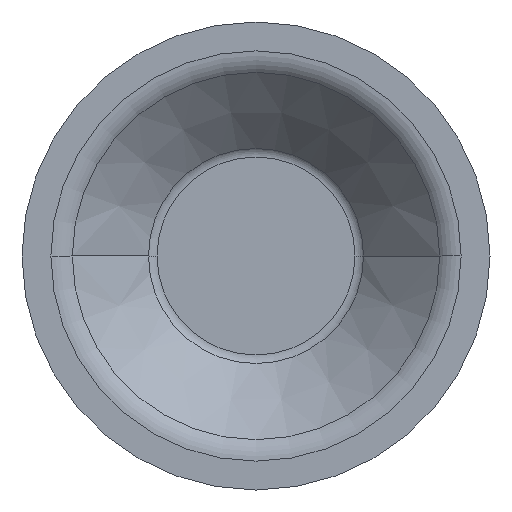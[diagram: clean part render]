
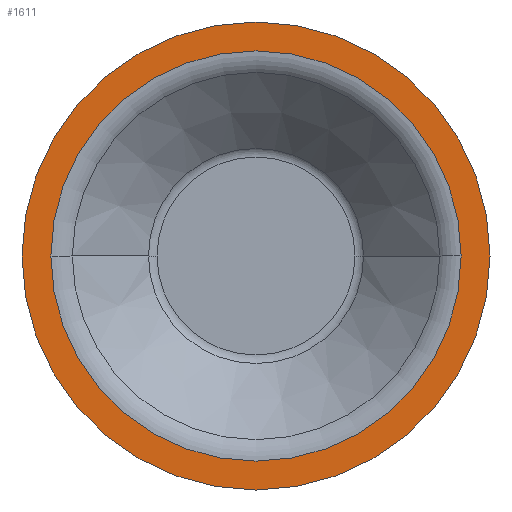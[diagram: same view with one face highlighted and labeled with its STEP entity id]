
A CAD part, front view. The second image highlights one B-rep face of the part: STEP entity #1611.
In plain terms, the highlighted planar face has unit normal (0, -1, 0).
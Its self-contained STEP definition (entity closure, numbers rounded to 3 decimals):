
#15 = CIRCLE ( 'NONE', #410, 33.312 ) ;
#61 = FACE_BOUND ( 'NONE', #1365, .T. ) ;
#79 = CARTESIAN_POINT ( 'NONE',  ( -33.312, -17., 0. ) ) ;
#147 = DIRECTION ( 'NONE',  ( 1., 0., 0. ) ) ;
#155 = VERTEX_POINT ( 'NONE', #1584 ) ;
#159 = DIRECTION ( 'NONE',  ( 1., 0., 0. ) ) ;
#249 = AXIS2_PLACEMENT_3D ( 'NONE', #776, #785, #159 ) ;
#314 = CIRCLE ( 'NONE', #1253, 38. ) ;
#317 = CARTESIAN_POINT ( 'NONE',  ( 38., -17., 0. ) ) ;
#324 = CIRCLE ( 'NONE', #249, 38. ) ;
#362 = CARTESIAN_POINT ( 'NONE',  ( 0., -17., 0. ) ) ;
#393 = CARTESIAN_POINT ( 'NONE',  ( 0., -17., 0. ) ) ;
#399 = DIRECTION ( 'NONE',  ( 0., -1., 0. ) ) ;
#410 = AXIS2_PLACEMENT_3D ( 'NONE', #362, #491, #1238 ) ;
#467 = CIRCLE ( 'NONE', #656, 33.312 ) ;
#491 = DIRECTION ( 'NONE',  ( 0., -1., 0. ) ) ;
#541 = VERTEX_POINT ( 'NONE', #79 ) ;
#599 = VERTEX_POINT ( 'NONE', #317 ) ;
#656 = AXIS2_PLACEMENT_3D ( 'NONE', #393, #893, #766 ) ;
#704 = EDGE_CURVE ( 'NONE', #1198, #541, #15, .T. ) ;
#752 = ORIENTED_EDGE ( 'NONE', *, *, #1411, .T. ) ;
#766 = DIRECTION ( 'NONE',  ( -1., 0., 0. ) ) ;
#776 = CARTESIAN_POINT ( 'NONE',  ( 0., -17., 0. ) ) ;
#785 = DIRECTION ( 'NONE',  ( 0., -1., 0. ) ) ;
#810 = FACE_OUTER_BOUND ( 'NONE', #1553, .T. ) ;
#866 = EDGE_CURVE ( 'NONE', #541, #1198, #467, .T. ) ;
#893 = DIRECTION ( 'NONE',  ( 0., -1., 0. ) ) ;
#937 = AXIS2_PLACEMENT_3D ( 'NONE', #1168, #1044, #1077 ) ;
#1044 = DIRECTION ( 'NONE',  ( 0., -1., 0. ) ) ;
#1077 = DIRECTION ( 'NONE',  ( 1., 0., 0. ) ) ;
#1129 = EDGE_CURVE ( 'NONE', #155, #599, #314, .T. ) ;
#1168 = CARTESIAN_POINT ( 'NONE',  ( 38., -17., 0. ) ) ;
#1198 = VERTEX_POINT ( 'NONE', #1583 ) ;
#1238 = DIRECTION ( 'NONE',  ( -1., 0., 0. ) ) ;
#1253 = AXIS2_PLACEMENT_3D ( 'NONE', #1408, #399, #147 ) ;
#1287 = ORIENTED_EDGE ( 'NONE', *, *, #704, .F. ) ;
#1300 = PLANE ( 'NONE',  #937 ) ;
#1365 = EDGE_LOOP ( 'NONE', ( #1592, #1287 ) ) ;
#1379 = ORIENTED_EDGE ( 'NONE', *, *, #1129, .T. ) ;
#1408 = CARTESIAN_POINT ( 'NONE',  ( 0., -17., 0. ) ) ;
#1411 = EDGE_CURVE ( 'NONE', #599, #155, #324, .T. ) ;
#1553 = EDGE_LOOP ( 'NONE', ( #752, #1379 ) ) ;
#1583 = CARTESIAN_POINT ( 'NONE',  ( 33.312, -17., 0. ) ) ;
#1584 = CARTESIAN_POINT ( 'NONE',  ( -38., -17., 0. ) ) ;
#1592 = ORIENTED_EDGE ( 'NONE', *, *, #866, .F. ) ;
#1611 = ADVANCED_FACE ( 'NONE', ( #61, #810 ), #1300, .T. ) ;
